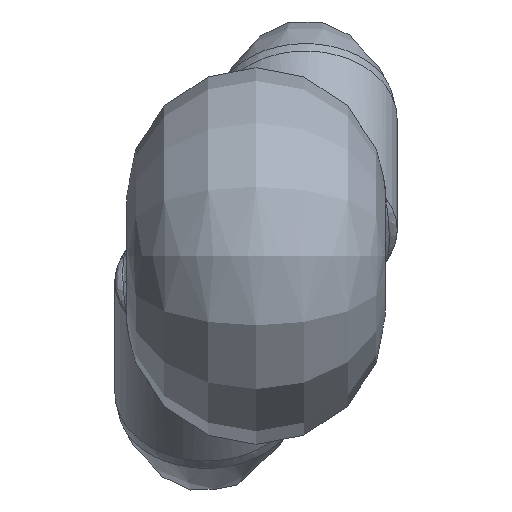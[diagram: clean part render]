
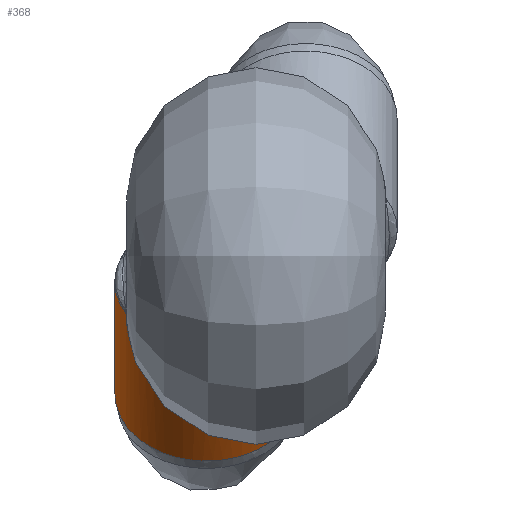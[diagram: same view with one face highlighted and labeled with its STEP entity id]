
A CAD part, left-side view. The second image highlights one B-rep face of the part: STEP entity #368.
In plain terms, the highlighted cylindrical face has radius 1.95 mm (diameter 3.9 mm), a full revolution.
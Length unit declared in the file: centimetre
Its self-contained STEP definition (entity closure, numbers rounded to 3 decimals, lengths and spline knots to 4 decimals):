
#18=CYLINDRICAL_SURFACE('',#399,0.195);
#25=B_SPLINE_CURVE_WITH_KNOTS('',3,(#644,#645,#646,#647,#648,#649,#650,
#651,#652,#653,#654,#655,#656,#657,#658,#659,#660,#661,#662,#663,#664,#665,
#666),.UNSPECIFIED.,.F.,.F.,(4,2,3,2,2,2,2,2,2,2,4),(-0.022,
-0.0183,0.,0.0187,0.0487,0.0868,
0.1301,0.1795,0.232,0.2884,
0.3031),.UNSPECIFIED.);
#26=B_SPLINE_CURVE_WITH_KNOTS('',3,(#667,#668,#669,#670,#671,#672,#673,
#674,#675,#676,#677,#678,#679,#680,#681,#682,#683,#684,#685),
 .UNSPECIFIED.,.F.,.F.,(4,2,2,2,2,2,3,2,4),(-0.3031,-0.2832,
-0.2282,-0.1991,-0.1501,-0.109,
-0.0783,-0.0476,-0.022),
 .UNSPECIFIED.);
#27=B_SPLINE_CURVE_WITH_KNOTS('',3,(#689,#690,#691,#692,#693,#694,#695,
#696,#697,#698,#699,#700,#701,#702,#703,#704),.UNSPECIFIED.,.F.,.F.,(4,
1,1,1,1,1,1,1,1,1,1,1,1,4),(0.,0.0467,0.0933,0.1867,
0.3733,0.4667,0.56,0.6534,
0.7467,0.84,0.9334,1.12,1.2134,
1.3067),.UNSPECIFIED.);
#64=FACE_BOUND('',#99,.T.);
#71=FACE_OUTER_BOUND('',#98,.T.);
#98=EDGE_LOOP('',(#242,#243));
#99=EDGE_LOOP('',(#244,#245));
#129=CIRCLE('',#400,0.195);
#150=VERTEX_POINT('',#591);
#154=VERTEX_POINT('',#643);
#155=VERTEX_POINT('',#687);
#156=VERTEX_POINT('',#688);
#188=EDGE_CURVE('',#150,#154,#25,.T.);
#189=EDGE_CURVE('',#154,#150,#26,.T.);
#190=EDGE_CURVE('',#155,#156,#27,.T.);
#191=EDGE_CURVE('',#156,#155,#129,.T.);
#242=ORIENTED_EDGE('',*,*,#190,.F.);
#243=ORIENTED_EDGE('',*,*,#191,.F.);
#244=ORIENTED_EDGE('',*,*,#188,.F.);
#245=ORIENTED_EDGE('',*,*,#189,.F.);
#368=ADVANCED_FACE('',(#71,#64),#18,.T.);
#399=AXIS2_PLACEMENT_3D('',#686,#442,#443);
#400=AXIS2_PLACEMENT_3D('',#705,#444,#445);
#442=DIRECTION('center_axis',(-0.707,0.,0.707));
#443=DIRECTION('ref_axis',(-0.707,0.,-0.707));
#444=DIRECTION('center_axis',(-0.707,0.,0.707));
#445=DIRECTION('ref_axis',(0.005,1.,0.005));
#591=CARTESIAN_POINT('',(0.3401,-0.0143,-0.2763));
#643=CARTESIAN_POINT('',(0.3532,0.3713,-0.2597));
#644=CARTESIAN_POINT('Ctrl Pts',(0.3401,-0.0143,
-0.2763));
#645=CARTESIAN_POINT('Ctrl Pts',(0.3385,-0.0145,
-0.2783));
#646=CARTESIAN_POINT('Ctrl Pts',(0.337,-0.0147,
-0.2802));
#647=CARTESIAN_POINT('Ctrl Pts',(0.3275,-0.0154,
-0.2918));
#648=CARTESIAN_POINT('Ctrl Pts',(0.3195,-0.0148,
-0.3014));
#649=CARTESIAN_POINT('Ctrl Pts',(0.3115,-0.013,
-0.3107));
#650=CARTESIAN_POINT('Ctrl Pts',(0.3033,-0.0112,
-0.3203));
#651=CARTESIAN_POINT('Ctrl Pts',(0.2951,-0.0082,
-0.3297));
#652=CARTESIAN_POINT('Ctrl Pts',(0.2743,0.0029,
-0.3534));
#653=CARTESIAN_POINT('Ctrl Pts',(0.2621,0.0128,-0.3669));
#654=CARTESIAN_POINT('Ctrl Pts',(0.2371,0.0413,-0.3945));
#655=CARTESIAN_POINT('Ctrl Pts',(0.2253,0.0615,-0.4074));
#656=CARTESIAN_POINT('Ctrl Pts',(0.2066,0.1104,-0.4276));
#657=CARTESIAN_POINT('Ctrl Pts',(0.2008,0.1396,-0.4338));
#658=CARTESIAN_POINT('Ctrl Pts',(0.1984,0.2035,-0.4364));
#659=CARTESIAN_POINT('Ctrl Pts',(0.2034,0.238,-0.431));
#660=CARTESIAN_POINT('Ctrl Pts',(0.2249,0.3004,-0.4078));
#661=CARTESIAN_POINT('Ctrl Pts',(0.2421,0.3278,-0.3891));
#662=CARTESIAN_POINT('Ctrl Pts',(0.2849,0.3667,-0.3416));
#663=CARTESIAN_POINT('Ctrl Pts',(0.3108,0.3765,-0.3122));
#664=CARTESIAN_POINT('Ctrl Pts',(0.3412,0.3744,-0.2751));
#665=CARTESIAN_POINT('Ctrl Pts',(0.3473,0.3732,-0.2674));
#666=CARTESIAN_POINT('Ctrl Pts',(0.3532,0.3713,-0.2597));
#667=CARTESIAN_POINT('Ctrl Pts',(0.3532,0.3713,-0.2597));
#668=CARTESIAN_POINT('Ctrl Pts',(0.3613,0.3687,-0.2494));
#669=CARTESIAN_POINT('Ctrl Pts',(0.3689,0.3648,-0.2391));
#670=CARTESIAN_POINT('Ctrl Pts',(0.3953,0.3459,-0.2018));
#671=CARTESIAN_POINT('Ctrl Pts',(0.4101,0.3235,-0.1765));
#672=CARTESIAN_POINT('Ctrl Pts',(0.4266,0.2789,-0.1474));
#673=CARTESIAN_POINT('Ctrl Pts',(0.4311,0.2616,-0.1391));
#674=CARTESIAN_POINT('Ctrl Pts',(0.4397,0.2117,-0.1236));
#675=CARTESIAN_POINT('Ctrl Pts',(0.441,0.1766,-0.1213));
#676=CARTESIAN_POINT('Ctrl Pts',(0.4352,0.1159,-0.1317));
#677=CARTESIAN_POINT('Ctrl Pts',(0.4296,0.09,-0.142));
#678=CARTESIAN_POINT('Ctrl Pts',(0.4159,0.0517,-0.1663));
#679=CARTESIAN_POINT('Ctrl Pts',(0.4088,0.0373,-0.1787));
#680=CARTESIAN_POINT('Ctrl Pts',(0.4004,0.0254,-0.1923));
#681=CARTESIAN_POINT('Ctrl Pts',(0.3919,0.0134,-0.2059));
#682=CARTESIAN_POINT('Ctrl Pts',(0.382,0.0036,
-0.221));
#683=CARTESIAN_POINT('Ctrl Pts',(0.3612,-0.0091,
-0.2496));
#684=CARTESIAN_POINT('Ctrl Pts',(0.3509,-0.0128,
-0.2629));
#685=CARTESIAN_POINT('Ctrl Pts',(0.3401,-0.0143,
-0.2763));
#686=CARTESIAN_POINT('Origin',(0.3414,0.18,-0.3014));
#687=CARTESIAN_POINT('',(0.0299,0.3512,-0.122));
#688=CARTESIAN_POINT('',(0.1663,0.3477,0.0144));
#689=CARTESIAN_POINT('Ctrl Pts',(0.0299,0.3512,-0.122));
#690=CARTESIAN_POINT('Ctrl Pts',(0.0408,0.3511,-0.1331));
#691=CARTESIAN_POINT('Ctrl Pts',(0.0597,0.3489,-0.1581));
#692=CARTESIAN_POINT('Ctrl Pts',(0.083,0.3343,-0.214));
#693=CARTESIAN_POINT('Ctrl Pts',(0.1012,0.2864,-0.3085));
#694=CARTESIAN_POINT('Ctrl Pts',(0.1221,0.1803,-0.3786));
#695=CARTESIAN_POINT('Ctrl Pts',(0.1744,0.0692,-0.3727));
#696=CARTESIAN_POINT('Ctrl Pts',(0.2267,0.0065,
-0.3325));
#697=CARTESIAN_POINT('Ctrl Pts',(0.2865,-0.0212,
-0.2693));
#698=CARTESIAN_POINT('Ctrl Pts',(0.3439,-0.0078,
-0.1996));
#699=CARTESIAN_POINT('Ctrl Pts',(0.3851,0.0428,-0.1362));
#700=CARTESIAN_POINT('Ctrl Pts',(0.4019,0.1445,-0.0697));
#701=CARTESIAN_POINT('Ctrl Pts',(0.3487,0.2571,-0.0388));
#702=CARTESIAN_POINT('Ctrl Pts',(0.2494,0.3268,-0.022));
#703=CARTESIAN_POINT('Ctrl Pts',(0.1921,0.3439,-0.0024));
#704=CARTESIAN_POINT('Ctrl Pts',(0.1663,0.3477,0.0144));
#705=CARTESIAN_POINT('Origin',(0.0959,0.18,-0.0559));
